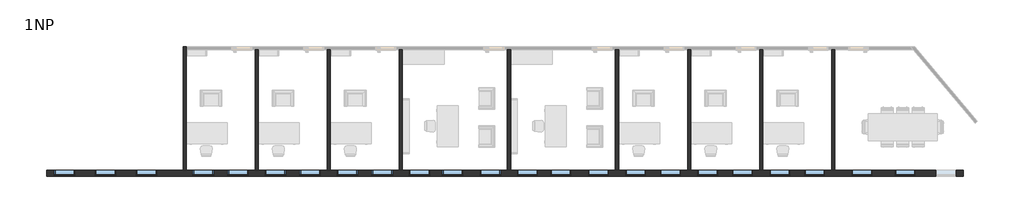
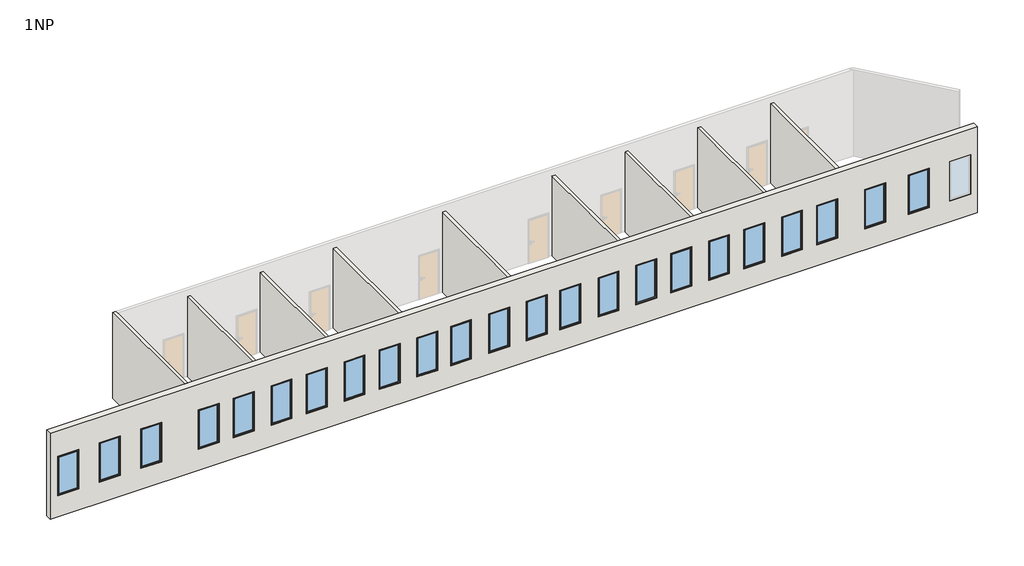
# One storey, part 1 of 2: 23 windows, 10 walls.
"""IFC4 building model written with IfcOpenShell, lengths in millimetres."""

from ifc_helpers import new_model, si_unit, origin, origin_with_axes, place, context, project, spatial, polyline, outline, extrude, faceted_brep, transform, mapped, element, save
from components import window_0915_x_1830mm_7ee91fd3

model = new_model("IFC4")

# Units and contexts
model_context = context("Model", 3, world=origin())
ifc_project = project(units=[si_unit("LENGTHUNIT", "METRE", prefix="MILLI")], contexts=[model_context])

# Site, building, storey
site = spatial("IfcSite", under=ifc_project)
building = spatial("IfcBuilding", under=site)
storey = spatial("IfcBuildingStorey", under=building, Name="1NP", Elevation=0.0)

# Walls
placement = place(None, origin())
element("IfcWall", 1, ObjectType="Exterior - EIFS on Mtl. Stud", at=placement, inside=storey, context=model_context, shape_type="Brep", body=[
    faceted_brep([(33755.6755273, -4624.9448694, 0.0), (28058.4255273, -4624.9448694, 0.0), (27919.9255273, -4624.9448694, 0.0), (24858.4255273, -4624.9448694, 0.0), (24719.9255273, -4624.9448694, 0.0), (21658.4255273, -4624.9448694, 0.0), (21519.9255273, -4624.9448694, 0.0), (18458.4255273, -4624.9448694, 0.0), (18319.9255273, -4624.9448694, 0.0), (13658.4255273, -4624.9448694, 0.0), (13519.9255273, -4624.9448694, 0.0), (8858.4255273, -4624.9448694, 0.0), (8719.9255273, -4624.9448694, 0.0), (5658.4255273, -4624.9448694, 0.0), (5519.9255273, -4624.9448694, 0.0), (2458.4255273, -4624.9448694, 0.0), (2319.9255273, -4624.9448694, 0.0), (-741.5744727, -4624.9448694, 0.0), (-880.0744727, -4624.9448694, 0.0), (-6943.1051418, -4624.9448694, 0.0), (-6943.1051418, -4624.9448694, 4000.0), (-880.0744727, -4624.9448694, 4000.0), (-741.5744727, -4624.9448694, 4000.0), (33755.6755273, -4624.9448694, 4000.0), (33455.6755273, -4624.9448694, 970.0), (33455.6755273, -4624.9448694, 2800.0), (32540.6755273, -4624.9448694, 2800.0), (32540.6755273, -4624.9448694, 970.0), (31640.6755273, -4624.9448694, 970.0), (31640.6755273, -4624.9448694, 2800.0), (30725.6755273, -4624.9448694, 2800.0), (30725.6755273, -4624.9448694, 970.0), (29725.6755273, -4624.9448694, 970.0), (29725.6755273, -4624.9448694, 2800.0), (28810.6755273, -4624.9448694, 2800.0), (28810.6755273, -4624.9448694, 970.0), (-5680.0744727, -4624.9448694, 970.0), (-5680.0744727, -4624.9448694, 2800.0), (-6595.0744727, -4624.9448694, 2800.0), (-6595.0744727, -4624.9448694, 970.0), (-3865.0744727, -4624.9448694, 970.0), (-3865.0744727, -4624.9448694, 2800.0), (-4780.0744727, -4624.9448694, 2800.0), (-4780.0744727, -4624.9448694, 970.0), (-2050.0744727, -4624.9448694, 970.0), (-2050.0744727, -4624.9448694, 2800.0), (-2965.0744727, -4624.9448694, 2800.0), (-2965.0744727, -4624.9448694, 970.0), (473.4255273, -4624.9448694, 970.0), (473.4255273, -4624.9448694, 2800.0), (-441.5744727, -4624.9448694, 2800.0), (-441.5744727, -4624.9448694, 970.0), (2019.9255273, -4624.9448694, 970.0), (2019.9255273, -4624.9448694, 2800.0), (1104.9255273, -4624.9448694, 2800.0), (1104.9255273, -4624.9448694, 970.0), (16346.6755273, -4624.9448694, 970.0), (16346.6755273, -4624.9448694, 2800.0), (15431.6755273, -4624.9448694, 2800.0), (15431.6755273, -4624.9448694, 970.0), (14873.4255273, -4624.9448694, 970.0), (14873.4255273, -4624.9448694, 2800.0), (13958.4255273, -4624.9448694, 2800.0), (13958.4255273, -4624.9448694, 970.0), (18019.9255273, -4624.9448694, 970.0), (18019.9255273, -4624.9448694, 2800.0), (17104.9255273, -4624.9448694, 2800.0), (17104.9255273, -4624.9448694, 970.0), (3673.4255273, -4624.9448694, 970.0), (3673.4255273, -4624.9448694, 2800.0), (2758.4255273, -4624.9448694, 2800.0), (2758.4255273, -4624.9448694, 970.0), (5219.9255273, -4624.9448694, 970.0), (5219.9255273, -4624.9448694, 2800.0), (4304.9255273, -4624.9448694, 2800.0), (4304.9255273, -4624.9448694, 970.0), (6873.4255273, -4624.9448694, 970.0), (6873.4255273, -4624.9448694, 2800.0), (5958.4255273, -4624.9448694, 2800.0), (5958.4255273, -4624.9448694, 970.0), (8419.9255273, -4624.9448694, 970.0), (8419.9255273, -4624.9448694, 2800.0), (7504.9255273, -4624.9448694, 2800.0), (7504.9255273, -4624.9448694, 970.0), (19673.4255273, -4624.9448694, 970.0), (19673.4255273, -4624.9448694, 2800.0), (18758.4255273, -4624.9448694, 2800.0), (18758.4255273, -4624.9448694, 970.0), (21219.9255273, -4624.9448694, 970.0), (21219.9255273, -4624.9448694, 2800.0), (20304.9255273, -4624.9448694, 2800.0), (20304.9255273, -4624.9448694, 970.0), (22873.4255273, -4624.9448694, 970.0), (22873.4255273, -4624.9448694, 2800.0), (21958.4255273, -4624.9448694, 2800.0), (21958.4255273, -4624.9448694, 970.0), (24419.9255273, -4624.9448694, 970.0), (24419.9255273, -4624.9448694, 2800.0), (23504.9255273, -4624.9448694, 2800.0), (23504.9255273, -4624.9448694, 970.0), (26073.4255273, -4624.9448694, 970.0), (26073.4255273, -4624.9448694, 2800.0), (25158.4255273, -4624.9448694, 2800.0), (25158.4255273, -4624.9448694, 970.0), (27619.9255273, -4624.9448694, 970.0), (27619.9255273, -4624.9448694, 2800.0), (26704.9255273, -4624.9448694, 2800.0), (26704.9255273, -4624.9448694, 970.0), (10073.4255273, -4624.9448694, 970.0), (10073.4255273, -4624.9448694, 2800.0), (9158.4255273, -4624.9448694, 2800.0), (9158.4255273, -4624.9448694, 970.0), (11546.6755273, -4624.9448694, 970.0), (11546.6755273, -4624.9448694, 2800.0), (10631.6755273, -4624.9448694, 2800.0), (10631.6755273, -4624.9448694, 970.0), (13219.9255273, -4624.9448694, 970.0), (13219.9255273, -4624.9448694, 2800.0), (12304.9255273, -4624.9448694, 2800.0), (12304.9255273, -4624.9448694, 970.0), (-6943.1051418, -4891.9448694, 0.0), (33755.6755273, -4891.9448694, 0.0), (33755.6755273, -4891.9448694, 4000.0), (-6943.1051418, -4891.9448694, 4000.0), (33455.6755273, -4891.9448694, 2800.0), (33455.6755273, -4891.9448694, 970.0), (32540.6755273, -4891.9448694, 970.0), (32540.6755273, -4891.9448694, 2800.0), (31640.6755273, -4891.9448694, 2800.0), (31640.6755273, -4891.9448694, 970.0), (30725.6755273, -4891.9448694, 970.0), (30725.6755273, -4891.9448694, 2800.0), (29725.6755273, -4891.9448694, 2800.0), (29725.6755273, -4891.9448694, 970.0), (28810.6755273, -4891.9448694, 970.0), (28810.6755273, -4891.9448694, 2800.0), (-5680.0744727, -4891.9448694, 2800.0), (-5680.0744727, -4891.9448694, 970.0), (-6595.0744727, -4891.9448694, 970.0), (-6595.0744727, -4891.9448694, 2800.0), (-3865.0744727, -4891.9448694, 970.0), (-4780.0744727, -4891.9448694, 970.0), (-4780.0744727, -4891.9448694, 2800.0), (-3865.0744727, -4891.9448694, 2800.0), (-2050.0744727, -4891.9448694, 970.0), (-2965.0744727, -4891.9448694, 970.0), (-2965.0744727, -4891.9448694, 2800.0), (-2050.0744727, -4891.9448694, 2800.0), (473.4255273, -4891.9448694, 970.0), (-441.5744727, -4891.9448694, 970.0), (-441.5744727, -4891.9448694, 2800.0), (473.4255273, -4891.9448694, 2800.0), (2019.9255273, -4891.9448694, 970.0), (1104.9255273, -4891.9448694, 970.0), (1104.9255273, -4891.9448694, 2800.0), (2019.9255273, -4891.9448694, 2800.0), (16346.6755273, -4891.9448694, 970.0), (15431.6755273, -4891.9448694, 970.0), (15431.6755273, -4891.9448694, 2800.0), (16346.6755273, -4891.9448694, 2800.0), (14873.4255273, -4891.9448694, 970.0), (13958.4255273, -4891.9448694, 970.0), (13958.4255273, -4891.9448694, 2800.0), (14873.4255273, -4891.9448694, 2800.0), (18019.9255273, -4891.9448694, 970.0), (17104.9255273, -4891.9448694, 970.0), (17104.9255273, -4891.9448694, 2800.0), (18019.9255273, -4891.9448694, 2800.0), (3673.4255273, -4891.9448694, 970.0), (2758.4255273, -4891.9448694, 970.0), (2758.4255273, -4891.9448694, 2800.0), (3673.4255273, -4891.9448694, 2800.0), (5219.9255273, -4891.9448694, 970.0), (4304.9255273, -4891.9448694, 970.0), (4304.9255273, -4891.9448694, 2800.0), (5219.9255273, -4891.9448694, 2800.0), (6873.4255273, -4891.9448694, 970.0), (5958.4255273, -4891.9448694, 970.0), (5958.4255273, -4891.9448694, 2800.0), (6873.4255273, -4891.9448694, 2800.0), (8419.9255273, -4891.9448694, 970.0), (7504.9255273, -4891.9448694, 970.0), (7504.9255273, -4891.9448694, 2800.0), (8419.9255273, -4891.9448694, 2800.0), (19673.4255273, -4891.9448694, 970.0), (18758.4255273, -4891.9448694, 970.0), (18758.4255273, -4891.9448694, 2800.0), (19673.4255273, -4891.9448694, 2800.0), (21219.9255273, -4891.9448694, 970.0), (20304.9255273, -4891.9448694, 970.0), (20304.9255273, -4891.9448694, 2800.0), (21219.9255273, -4891.9448694, 2800.0), (22873.4255273, -4891.9448694, 970.0), (21958.4255273, -4891.9448694, 970.0), (21958.4255273, -4891.9448694, 2800.0), (22873.4255273, -4891.9448694, 2800.0), (24419.9255273, -4891.9448694, 970.0), (23504.9255273, -4891.9448694, 970.0), (23504.9255273, -4891.9448694, 2800.0), (24419.9255273, -4891.9448694, 2800.0), (26073.4255273, -4891.9448694, 970.0), (25158.4255273, -4891.9448694, 970.0), (25158.4255273, -4891.9448694, 2800.0), (26073.4255273, -4891.9448694, 2800.0), (27619.9255273, -4891.9448694, 970.0), (26704.9255273, -4891.9448694, 970.0), (26704.9255273, -4891.9448694, 2800.0), (27619.9255273, -4891.9448694, 2800.0), (10073.4255273, -4891.9448694, 970.0), (9158.4255273, -4891.9448694, 970.0), (9158.4255273, -4891.9448694, 2800.0), (10073.4255273, -4891.9448694, 2800.0), (11546.6755273, -4891.9448694, 970.0), (10631.6755273, -4891.9448694, 970.0), (10631.6755273, -4891.9448694, 2800.0), (11546.6755273, -4891.9448694, 2800.0), (13219.9255273, -4891.9448694, 970.0), (12304.9255273, -4891.9448694, 970.0), (12304.9255273, -4891.9448694, 2800.0), (13219.9255273, -4891.9448694, 2800.0)], [[[0, 1, 2, 3, 4, 5, 6, 7, 8, 9, 10, 11, 12, 13, 14, 15, 16, 17, 18, 19, 20, 21, 22, 23], [24, 25, 26, 27], [28, 29, 30, 31], [32, 33, 34, 35], [36, 37, 38, 39], [40, 41, 42, 43], [44, 45, 46, 47], [48, 49, 50, 51], [52, 53, 54, 55], [56, 57, 58, 59], [60, 61, 62, 63], [64, 65, 66, 67], [68, 69, 70, 71], [72, 73, 74, 75], [76, 77, 78, 79], [80, 81, 82, 83], [84, 85, 86, 87], [88, 89, 90, 91], [92, 93, 94, 95], [96, 97, 98, 99], [100, 101, 102, 103], [104, 105, 106, 107], [108, 109, 110, 111], [112, 113, 114, 115], [116, 117, 118, 119]], [[120, 121, 122, 123], [124, 125, 126, 127], [128, 129, 130, 131], [132, 133, 134, 135], [136, 137, 138, 139], [140, 141, 142, 143], [144, 145, 146, 147], [148, 149, 150, 151], [152, 153, 154, 155], [156, 157, 158, 159], [160, 161, 162, 163], [164, 165, 166, 167], [168, 169, 170, 171], [172, 173, 174, 175], [176, 177, 178, 179], [180, 181, 182, 183], [184, 185, 186, 187], [188, 189, 190, 191], [192, 193, 194, 195], [196, 197, 198, 199], [200, 201, 202, 203], [204, 205, 206, 207], [208, 209, 210, 211], [212, 213, 214, 215], [216, 217, 218, 219]], [[19, 18, 17, 16, 15, 14, 13, 12, 11, 10, 9, 8, 7, 6, 5, 4, 3, 2, 1, 0, 121, 120]], [[20, 19, 120, 123]], [[23, 22, 21, 20, 123, 122]], [[0, 23, 122, 121]], [[25, 24, 125, 124]], [[26, 25, 124, 127]], [[27, 26, 127, 126]], [[24, 27, 126, 125]], [[29, 28, 129, 128]], [[30, 29, 128, 131]], [[31, 30, 131, 130]], [[28, 31, 130, 129]], [[33, 32, 133, 132]], [[34, 33, 132, 135]], [[35, 34, 135, 134]], [[32, 35, 134, 133]], [[36, 137, 136, 37]], [[37, 136, 139, 38]], [[138, 39, 38, 139]], [[137, 36, 39, 138]], [[41, 40, 140, 143]], [[42, 41, 143, 142]], [[43, 42, 142, 141]], [[40, 43, 141, 140]], [[45, 44, 144, 147]], [[46, 45, 147, 146]], [[47, 46, 146, 145]], [[44, 47, 145, 144]], [[49, 48, 148, 151]], [[50, 49, 151, 150]], [[51, 50, 150, 149]], [[48, 51, 149, 148]], [[53, 52, 152, 155]], [[54, 53, 155, 154]], [[55, 54, 154, 153]], [[52, 55, 153, 152]], [[57, 56, 156, 159]], [[58, 57, 159, 158]], [[59, 58, 158, 157]], [[56, 59, 157, 156]], [[61, 60, 160, 163]], [[62, 61, 163, 162]], [[63, 62, 162, 161]], [[60, 63, 161, 160]], [[65, 64, 164, 167]], [[66, 65, 167, 166]], [[67, 66, 166, 165]], [[64, 67, 165, 164]], [[69, 68, 168, 171]], [[70, 69, 171, 170]], [[71, 70, 170, 169]], [[68, 71, 169, 168]], [[73, 72, 172, 175]], [[74, 73, 175, 174]], [[75, 74, 174, 173]], [[72, 75, 173, 172]], [[77, 76, 176, 179]], [[78, 77, 179, 178]], [[79, 78, 178, 177]], [[76, 79, 177, 176]], [[81, 80, 180, 183]], [[82, 81, 183, 182]], [[83, 82, 182, 181]], [[80, 83, 181, 180]], [[85, 84, 184, 187]], [[86, 85, 187, 186]], [[87, 86, 186, 185]], [[84, 87, 185, 184]], [[89, 88, 188, 191]], [[90, 89, 191, 190]], [[91, 90, 190, 189]], [[88, 91, 189, 188]], [[93, 92, 192, 195]], [[94, 93, 195, 194]], [[95, 94, 194, 193]], [[92, 95, 193, 192]], [[97, 96, 196, 199]], [[98, 97, 199, 198]], [[99, 98, 198, 197]], [[96, 99, 197, 196]], [[101, 100, 200, 203]], [[102, 101, 203, 202]], [[103, 102, 202, 201]], [[100, 103, 201, 200]], [[105, 104, 204, 207]], [[106, 105, 207, 206]], [[107, 106, 206, 205]], [[104, 107, 205, 204]], [[109, 108, 208, 211]], [[110, 109, 211, 210]], [[111, 110, 210, 209]], [[108, 111, 209, 208]], [[113, 112, 212, 215]], [[114, 113, 215, 214]], [[115, 114, 214, 213]], [[112, 115, 213, 212]], [[117, 116, 216, 219]], [[118, 117, 219, 218]], [[119, 118, 218, 217]], [[116, 119, 217, 216]]]),
])
element("IfcWall", 2, ObjectType="Interior - 138mm Partition (1-hr)", at=placement, inside=storey, context=model_context, shape_type="Brep", body=[
    faceted_brep([(-741.5744727, -4624.9448694, 0.0), (-741.5744727, 722.3051306, 0.0), (-741.5744727, 860.8051306, 0.0), (-741.5744727, 860.8051306, 4000.0), (-741.5744727, 722.3051306, 4000.0), (-741.5744727, -4624.9448694, 4000.0), (-880.0744727, -4624.9448694, 0.0), (-880.0744727, -4624.9448694, 4000.0), (-880.0744727, 860.8051306, 4000.0), (-880.0744727, 860.8051306, 0.0)], [[[0, 1, 2, 3, 4, 5]], [[6, 7, 8, 9]], [[2, 1, 0, 6, 9]], [[5, 4, 3, 8, 7]], [[3, 2, 9, 8]], [[0, 5, 7, 6]]]),
])
element("IfcWall", 3, ObjectType="Interior - 138mm Partition (1-hr)", at=placement, inside=storey, context=model_context, shape_type="SweptSolid", body=[
    extrude(outline(polyline([(28058.4255273, 722.3051306), (28058.4255273, -4624.9448694), (27919.9255273, -4624.9448694), (27919.9255273, 722.3051306), (28058.4255273, 722.3051306)])), origin_with_axes(), (0.0, 0.0, 1.0), 3700.0),
])
element("IfcWall", 4, ObjectType="Interior - 138mm Partition (1-hr)", at=placement, inside=storey, context=model_context, shape_type="SweptSolid", body=[
    extrude(outline(polyline([(2458.4255273, 722.3051306), (2458.4255273, -4624.9448694), (2319.9255273, -4624.9448694), (2319.9255273, 722.3051306), (2458.4255273, 722.3051306)])), origin_with_axes(), (0.0, 0.0, 1.0), 3700.0),
])
element("IfcWall", 5, ObjectType="Interior - 138mm Partition (1-hr)", at=placement, inside=storey, context=model_context, shape_type="SweptSolid", body=[
    extrude(outline(polyline([(5658.4255273, 722.3051306), (5658.4255273, -4624.9448694), (5519.9255273, -4624.9448694), (5519.9255273, 722.3051306), (5658.4255273, 722.3051306)])), origin_with_axes(), (0.0, 0.0, 1.0), 3700.0),
])
element("IfcWall", 6, ObjectType="Interior - 138mm Partition (1-hr)", at=placement, inside=storey, context=model_context, shape_type="SweptSolid", body=[
    extrude(outline(polyline([(8858.4255273, 722.3051306), (8858.4255273, -4624.9448694), (8719.9255273, -4624.9448694), (8719.9255273, 722.3051306), (8858.4255273, 722.3051306)])), origin_with_axes(), (0.0, 0.0, 1.0), 3700.0),
])
element("IfcWall", 7, ObjectType="Interior - 138mm Partition (1-hr)", at=placement, inside=storey, context=model_context, shape_type="SweptSolid", body=[
    extrude(outline(polyline([(13658.4255273, 722.3051306), (13658.4255273, -4624.9448694), (13519.9255273, -4624.9448694), (13519.9255273, 722.3051306), (13658.4255273, 722.3051306)])), origin_with_axes(), (0.0, 0.0, 1.0), 3700.0),
])
element("IfcWall", 8, ObjectType="Interior - 138mm Partition (1-hr)", at=placement, inside=storey, context=model_context, shape_type="SweptSolid", body=[
    extrude(outline(polyline([(21658.4255273, 722.3051306), (21658.4255273, -4624.9448694), (21519.9255273, -4624.9448694), (21519.9255273, 722.3051306), (21658.4255273, 722.3051306)])), origin_with_axes(), (0.0, 0.0, 1.0), 3700.0),
])
element("IfcWall", 9, ObjectType="Interior - 138mm Partition (1-hr)", at=placement, inside=storey, context=model_context, shape_type="SweptSolid", body=[
    extrude(outline(polyline([(24858.4255273, 722.3051306), (24858.4255273, -4624.9448694), (24719.9255273, -4624.9448694), (24719.9255273, 722.3051306), (24858.4255273, 722.3051306)])), origin_with_axes(), (0.0, 0.0, 1.0), 3700.0),
])
element("IfcWall", 10, ObjectType="Interior - 138mm Partition (1-hr)", at=placement, inside=storey, context=model_context, shape_type="SweptSolid", body=[
    extrude(outline(polyline([(18458.4255273, 722.3051306), (18458.4255273, -4624.9448694), (18319.9255273, -4624.9448694), (18319.9255273, 722.3051306), (18458.4255273, 722.3051306)])), origin_with_axes(), (0.0, 0.0, 1.0), 3700.0),
])

# Windows
window_0915_x_1830mm_shape = window_0915_x_1830mm_7ee91fd3(model_context)
element("IfcWindow", 11, ObjectType="Pevne : 0915 x 1830mm", at=placement, inside=storey, context=model_context, shape_type="MappedRepresentation", body=[
    mapped(window_0915_x_1830mm_shape, transform((31183.1755273, -4745.4448694, 665.0), x_axis=(-1.0, 0.0, 0.0), y_axis=(0.0, -1.0, 0.0), z_axis=(0.0, 0.0, 1.0))),
])
element("IfcWindow", 12, ObjectType="Pevne : 0915 x 1830mm", at=placement, inside=storey, context=model_context, shape_type="MappedRepresentation", body=[
    mapped(window_0915_x_1830mm_shape, transform((29268.1755273, -4745.4448694, 665.0), x_axis=(-1.0, 0.0, 0.0), y_axis=(0.0, -1.0, 0.0), z_axis=(0.0, 0.0, 1.0))),
])
element("IfcWindow", 13, ObjectType="Pevne : 0915 x 1830mm", at=placement, inside=storey, context=model_context, shape_type="MappedRepresentation", body=[
    mapped(window_0915_x_1830mm_shape, transform((-6137.5744727, -4745.4448694, 665.0), x_axis=(-1.0, 0.0, 0.0), y_axis=(0.0, -1.0, 0.0), z_axis=(0.0, 0.0, 1.0))),
])
element("IfcWindow", 14, ObjectType="Pevne : 0915 x 1830mm", at=placement, inside=storey, context=model_context, shape_type="MappedRepresentation", body=[
    mapped(window_0915_x_1830mm_shape, transform((-4322.5744727, -4745.4448694, 665.0), x_axis=(-1.0, 0.0, 0.0), y_axis=(0.0, -1.0, 0.0), z_axis=(0.0, 0.0, 1.0))),
])
element("IfcWindow", 15, ObjectType="Pevne : 0915 x 1830mm", at=placement, inside=storey, context=model_context, shape_type="MappedRepresentation", body=[
    mapped(window_0915_x_1830mm_shape, transform((-2507.5744727, -4745.4448694, 665.0), x_axis=(-1.0, 0.0, 0.0), y_axis=(0.0, -1.0, 0.0), z_axis=(0.0, 0.0, 1.0))),
])
element("IfcWindow", 16, ObjectType="Pevne : 0915 x 1830mm", at=placement, inside=storey, context=model_context, shape_type="MappedRepresentation", body=[
    mapped(window_0915_x_1830mm_shape, transform((15.9255273, -4745.4448694, 665.0), x_axis=(-1.0, 0.0, 0.0), y_axis=(0.0, -1.0, 0.0), z_axis=(0.0, 0.0, 1.0))),
])
element("IfcWindow", 17, ObjectType="Pevne : 0915 x 1830mm", at=placement, inside=storey, context=model_context, shape_type="MappedRepresentation", body=[
    mapped(window_0915_x_1830mm_shape, transform((1562.4255273, -4745.4448694, 665.0), x_axis=(-1.0, 0.0, 0.0), y_axis=(0.0, -1.0, 0.0), z_axis=(0.0, 0.0, 1.0))),
])
element("IfcWindow", 18, ObjectType="Pevne : 0915 x 1830mm", at=placement, inside=storey, context=model_context, shape_type="MappedRepresentation", body=[
    mapped(window_0915_x_1830mm_shape, transform((3215.9255273, -4745.4448694, 665.0), x_axis=(-1.0, 0.0, 0.0), y_axis=(0.0, -1.0, 0.0), z_axis=(0.0, 0.0, 1.0))),
])
element("IfcWindow", 19, ObjectType="Pevne : 0915 x 1830mm", at=placement, inside=storey, context=model_context, shape_type="MappedRepresentation", body=[
    mapped(window_0915_x_1830mm_shape, transform((4762.4255273, -4745.4448694, 665.0), x_axis=(-1.0, 0.0, 0.0), y_axis=(0.0, -1.0, 0.0), z_axis=(0.0, 0.0, 1.0))),
])
element("IfcWindow", 20, ObjectType="Pevne : 0915 x 1830mm", at=placement, inside=storey, context=model_context, shape_type="MappedRepresentation", body=[
    mapped(window_0915_x_1830mm_shape, transform((6415.9255273, -4745.4448694, 665.0), x_axis=(-1.0, 0.0, 0.0), y_axis=(0.0, -1.0, 0.0), z_axis=(0.0, 0.0, 1.0))),
])
element("IfcWindow", 21, ObjectType="Pevne : 0915 x 1830mm", at=placement, inside=storey, context=model_context, shape_type="MappedRepresentation", body=[
    mapped(window_0915_x_1830mm_shape, transform((7962.4255273, -4745.4448694, 665.0), x_axis=(-1.0, 0.0, 0.0), y_axis=(0.0, -1.0, 0.0), z_axis=(0.0, 0.0, 1.0))),
])
element("IfcWindow", 22, ObjectType="Pevne : 0915 x 1830mm", at=placement, inside=storey, context=model_context, shape_type="MappedRepresentation", body=[
    mapped(window_0915_x_1830mm_shape, transform((9615.9255273, -4745.4448694, 665.0), x_axis=(-1.0, 0.0, 0.0), y_axis=(0.0, -1.0, 0.0), z_axis=(0.0, 0.0, 1.0))),
])
element("IfcWindow", 23, ObjectType="Pevne : 0915 x 1830mm", at=placement, inside=storey, context=model_context, shape_type="MappedRepresentation", body=[
    mapped(window_0915_x_1830mm_shape, transform((11089.1755273, -4745.4448694, 665.0), x_axis=(-1.0, 0.0, 0.0), y_axis=(0.0, -1.0, 0.0), z_axis=(0.0, 0.0, 1.0))),
])
element("IfcWindow", 24, ObjectType="Pevne : 0915 x 1830mm", at=placement, inside=storey, context=model_context, shape_type="MappedRepresentation", body=[
    mapped(window_0915_x_1830mm_shape, transform((19215.9255273, -4745.4448694, 665.0), x_axis=(-1.0, 0.0, 0.0), y_axis=(0.0, -1.0, 0.0), z_axis=(0.0, 0.0, 1.0))),
])
element("IfcWindow", 25, ObjectType="Pevne : 0915 x 1830mm", at=placement, inside=storey, context=model_context, shape_type="MappedRepresentation", body=[
    mapped(window_0915_x_1830mm_shape, transform((20762.4255273, -4745.4448694, 665.0), x_axis=(-1.0, 0.0, 0.0), y_axis=(0.0, -1.0, 0.0), z_axis=(0.0, 0.0, 1.0))),
])
element("IfcWindow", 26, ObjectType="Pevne : 0915 x 1830mm", at=placement, inside=storey, context=model_context, shape_type="MappedRepresentation", body=[
    mapped(window_0915_x_1830mm_shape, transform((22415.9255273, -4745.4448694, 665.0), x_axis=(-1.0, 0.0, 0.0), y_axis=(0.0, -1.0, 0.0), z_axis=(0.0, 0.0, 1.0))),
])
element("IfcWindow", 27, ObjectType="Pevne : 0915 x 1830mm", at=placement, inside=storey, context=model_context, shape_type="MappedRepresentation", body=[
    mapped(window_0915_x_1830mm_shape, transform((23962.4255273, -4745.4448694, 665.0), x_axis=(-1.0, 0.0, 0.0), y_axis=(0.0, -1.0, 0.0), z_axis=(0.0, 0.0, 1.0))),
])
element("IfcWindow", 28, ObjectType="Pevne : 0915 x 1830mm", at=placement, inside=storey, context=model_context, shape_type="MappedRepresentation", body=[
    mapped(window_0915_x_1830mm_shape, transform((25615.9255273, -4745.4448694, 665.0), x_axis=(-1.0, 0.0, 0.0), y_axis=(0.0, -1.0, 0.0), z_axis=(0.0, 0.0, 1.0))),
])
element("IfcWindow", 29, ObjectType="Pevne : 0915 x 1830mm", at=placement, inside=storey, context=model_context, shape_type="MappedRepresentation", body=[
    mapped(window_0915_x_1830mm_shape, transform((27162.4255273, -4745.4448694, 665.0), x_axis=(-1.0, 0.0, 0.0), y_axis=(0.0, -1.0, 0.0), z_axis=(0.0, 0.0, 1.0))),
])
element("IfcWindow", 30, ObjectType="Pevne : 0915 x 1830mm", at=placement, inside=storey, context=model_context, shape_type="MappedRepresentation", body=[
    mapped(window_0915_x_1830mm_shape, transform((12762.4255273, -4745.4448694, 665.0), x_axis=(-1.0, 0.0, 0.0), y_axis=(0.0, -1.0, 0.0), z_axis=(0.0, 0.0, 1.0))),
])
element("IfcWindow", 31, ObjectType="Pevne : 0915 x 1830mm", at=placement, inside=storey, context=model_context, shape_type="MappedRepresentation", body=[
    mapped(window_0915_x_1830mm_shape, transform((14415.9255273, -4745.4448694, 665.0), x_axis=(-1.0, 0.0, 0.0), y_axis=(0.0, -1.0, 0.0), z_axis=(0.0, 0.0, 1.0))),
])
element("IfcWindow", 32, ObjectType="Pevne : 0915 x 1830mm", at=placement, inside=storey, context=model_context, shape_type="MappedRepresentation", body=[
    mapped(window_0915_x_1830mm_shape, transform((15889.1755273, -4745.4448694, 665.0), x_axis=(-1.0, 0.0, 0.0), y_axis=(0.0, -1.0, 0.0), z_axis=(0.0, 0.0, 1.0))),
])
element("IfcWindow", 33, ObjectType="Pevne : 0915 x 1830mm", at=placement, inside=storey, context=model_context, shape_type="MappedRepresentation", body=[
    mapped(window_0915_x_1830mm_shape, transform((17562.4255273, -4745.4448694, 665.0), x_axis=(-1.0, 0.0, 0.0), y_axis=(0.0, -1.0, 0.0), z_axis=(0.0, 0.0, 1.0))),
])

save(model, "model.ifc")
